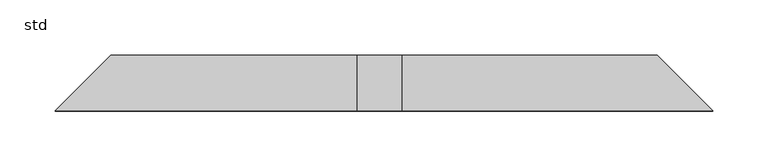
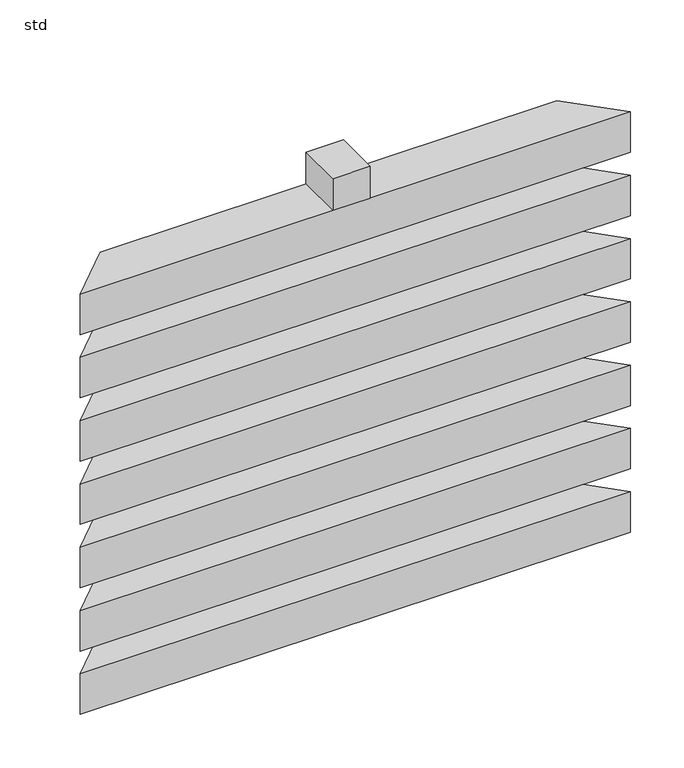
"""IFC4 building model written with IfcOpenShell, lengths in millimetres: unitary equipment geometry, Wavin_MechanicalEquipment_QBicPlusZDoNotUseLateralSidePlate : std."""

from ifc_helpers import new_model, si_unit, frame, origin, place, context, project, spatial, polyline, outline, extrude, source, transform, mapped, element, save


def std_0451be0c(model_context):
    return source(origin(), model_context, "Body", "SweptSolid", [
        extrude(outline(polyline([(320.0, 50.0), (320.0, 0.0), (280.0, 0.0), (280.0, 50.0), (320.0, 50.0)])), frame((0.0, 0.0, 578.0), z_axis=(0.0, 0.0, 1.0), x_axis=(1.0, 0.0, 0.0)), (0.0, 0.0, 1.0), 36.0),
        extrude(outline(polyline([(600.0, 0.0), (8.0, 0.0), (58.0, 50.0), (550.0, 50.0), (600.0, 0.0)])), frame((0.0, 0.0, 100.0), z_axis=(0.0, 0.0, 1.0), x_axis=(1.0, 0.0, 0.0)), (0.0, 0.0, 1.0), 46.0),
        extrude(outline(polyline([(600.0, 0.0), (8.0, 0.0), (58.0, 50.0), (550.0, 50.0), (600.0, 0.0)])), frame((0.0, 0.0, 172.0), z_axis=(0.0, 0.0, 1.0), x_axis=(1.0, 0.0, 0.0)), (0.0, 0.0, 1.0), 46.0),
        extrude(outline(polyline([(600.0, 0.0), (8.0, 0.0), (58.0, 50.0), (550.0, 50.0), (600.0, 0.0)])), frame((0.0, 0.0, 244.0), z_axis=(0.0, 0.0, 1.0), x_axis=(1.0, 0.0, 0.0)), (0.0, 0.0, 1.0), 46.0),
        extrude(outline(polyline([(600.0, 0.0), (8.0, 0.0), (58.0, 50.0), (550.0, 50.0), (600.0, 0.0)])), frame((0.0, 0.0, 316.0), z_axis=(0.0, 0.0, 1.0), x_axis=(1.0, 0.0, 0.0)), (0.0, 0.0, 1.0), 46.0),
        extrude(outline(polyline([(600.0, 0.0), (8.0, 0.0), (58.0, 50.0), (550.0, 50.0), (600.0, 0.0)])), frame((0.0, 0.0, 388.0), z_axis=(0.0, 0.0, 1.0), x_axis=(1.0, 0.0, 0.0)), (0.0, 0.0, 1.0), 46.0),
        extrude(outline(polyline([(600.0, 0.0), (8.0, 0.0), (58.0, 50.0), (550.0, 50.0), (600.0, 0.0)])), frame((0.0, 0.0, 460.0), z_axis=(0.0, 0.0, 1.0), x_axis=(1.0, 0.0, 0.0)), (0.0, 0.0, 1.0), 46.0),
        extrude(outline(polyline([(600.0, 0.0), (8.0, 0.0), (58.0, 50.0), (550.0, 50.0), (600.0, 0.0)])), frame((0.0, 0.0, 532.0), z_axis=(0.0, 0.0, 1.0), x_axis=(1.0, 0.0, 0.0)), (0.0, 0.0, 1.0), 46.0),
    ])


if __name__ == "__main__":
    model = new_model("IFC4")
    model_context = context("Model", 3, world=origin())
    ifc_project = project(units=[si_unit("LENGTHUNIT", "METRE", prefix="MILLI")], contexts=[model_context])
    site = spatial("IfcSite", under=ifc_project)
    building = spatial("IfcBuilding", under=site)
    placement = place(None, origin())
    std_shape = std_0451be0c(model_context)
    element("IfcUnitaryEquipment", 1, ObjectType="Wavin_MechanicalEquipment_QBicPlusZDoNotUseLateralSidePlate : std", at=placement, inside=building, context=model_context, shape_type="MappedRepresentation", body=[
        mapped(std_shape, transform((0.0, 0.0, 0.0), x_axis=(1.0, 0.0, 0.0), y_axis=(0.0, 1.0, 0.0), z_axis=(0.0, 0.0, 1.0))),
    ])
    save(model, "model.ifc")
